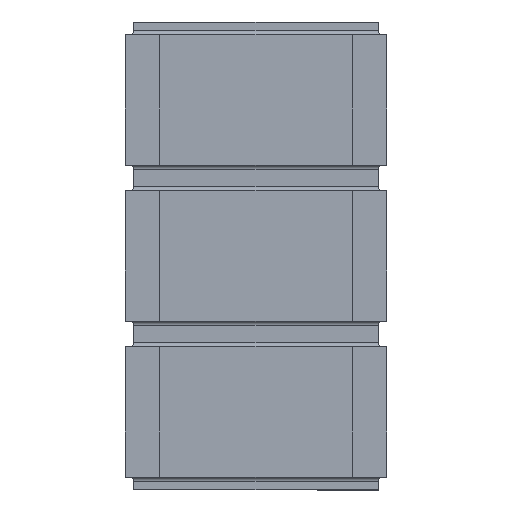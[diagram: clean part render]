
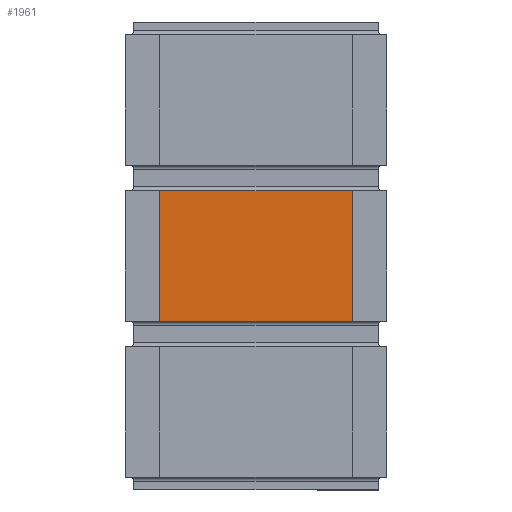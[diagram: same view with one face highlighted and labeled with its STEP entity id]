
A CAD part, top view. The second image highlights one B-rep face of the part: STEP entity #1961.
In plain terms, the highlighted planar face has unit normal (0, 0, 1).
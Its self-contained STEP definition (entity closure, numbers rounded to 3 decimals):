
#50=PLANE('',#2121);
#159=FACE_OUTER_BOUND('',#282,.T.);
#282=EDGE_LOOP('',(#1487,#1488,#1489,#1490));
#421=LINE('',#2886,#673);
#429=LINE('',#2901,#681);
#432=LINE('',#2913,#684);
#433=LINE('',#2914,#685);
#673=VECTOR('',#2341,10.);
#681=VECTOR('',#2359,10.);
#684=VECTOR('',#2370,10.);
#685=VECTOR('',#2371,10.);
#941=VERTEX_POINT('',#2883);
#942=VERTEX_POINT('',#2885);
#944=VERTEX_POINT('',#2899);
#949=VERTEX_POINT('',#2912);
#1137=EDGE_CURVE('',#941,#942,#421,.T.);
#1145=EDGE_CURVE('',#944,#941,#429,.T.);
#1150=EDGE_CURVE('',#949,#942,#432,.T.);
#1151=EDGE_CURVE('',#949,#944,#433,.T.);
#1487=ORIENTED_EDGE('',*,*,#1150,.T.);
#1488=ORIENTED_EDGE('',*,*,#1137,.F.);
#1489=ORIENTED_EDGE('',*,*,#1145,.F.);
#1490=ORIENTED_EDGE('',*,*,#1151,.F.);
#1961=ADVANCED_FACE('',(#159),#50,.T.);
#2121=AXIS2_PLACEMENT_3D('',#2911,#2368,#2369);
#2341=DIRECTION('',(-1.,0.,0.));
#2359=DIRECTION('',(0.,-1.,0.));
#2368=DIRECTION('center_axis',(0.,0.,1.));
#2369=DIRECTION('ref_axis',(1.,0.,0.));
#2370=DIRECTION('',(0.,-1.,0.));
#2371=DIRECTION('',(1.,0.,0.));
#2883=CARTESIAN_POINT('',(3.055,1.975,0.495));
#2885=CARTESIAN_POINT('',(0.005,1.975,0.495));
#2886=CARTESIAN_POINT('',(3.055,1.975,0.495));
#2899=CARTESIAN_POINT('',(3.055,3.5,0.495));
#2901=CARTESIAN_POINT('',(3.055,3.5,0.495));
#2911=CARTESIAN_POINT('Origin',(1.53,3.5,0.495));
#2912=CARTESIAN_POINT('',(0.005,3.5,0.495));
#2913=CARTESIAN_POINT('',(0.005,3.5,0.495));
#2914=CARTESIAN_POINT('',(0.005,3.5,0.495));
